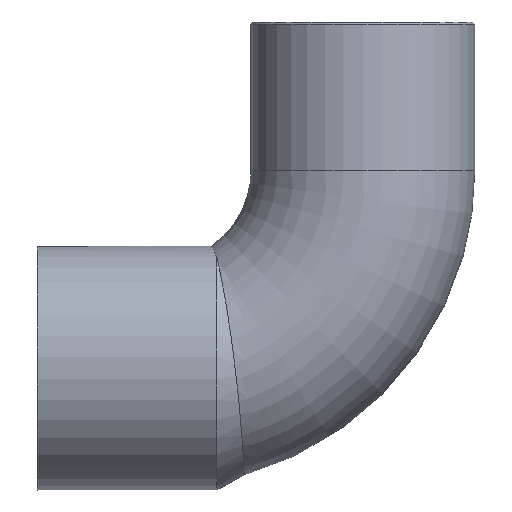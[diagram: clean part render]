
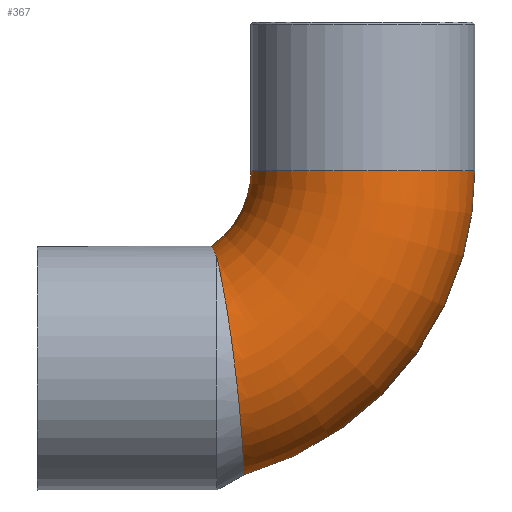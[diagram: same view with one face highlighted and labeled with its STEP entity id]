
A CAD part, top view. The second image highlights one B-rep face of the part: STEP entity #367.
In plain terms, the highlighted toroidal (fillet/blend) face has major radius 20 mm and minor radius 11 mm.
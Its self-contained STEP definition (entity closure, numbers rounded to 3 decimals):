
#169=CARTESIAN_POINT('',(31.0,0.,0.));
#170=VERTEX_POINT('',#169);
#171=CARTESIAN_POINT('',(20.0,0.,0.0));
#172=DIRECTION('',(0.0,-1.0,0.0));
#173=DIRECTION('',(1.0,0.0,0.0));
#174=AXIS2_PLACEMENT_3D('',#171,#172,#173);
#175=CIRCLE('',#174,11.0);
#176=EDGE_CURVE('',#170,#170,#175,.T.);
#229=CARTESIAN_POINT('',(5.668,-8.517,-5.055));
#230=VERTEX_POINT('',#229);
#231=CARTESIAN_POINT('',(5.668,-8.517,5.055));
#232=VERTEX_POINT('',#231);
#240=CARTESIAN_POINT('',(5.668,-8.517,-5.055));
#241=CARTESIAN_POINT('',(5.401,-7.991,-3.924));
#242=CARTESIAN_POINT('',(5.235,-7.638,-2.698));
#243=CARTESIAN_POINT('',(5.119,-7.392,-0.654));
#244=CARTESIAN_POINT('',(5.111,-7.375,0.133));
#245=CARTESIAN_POINT('',(5.191,-7.546,2.362));
#246=CARTESIAN_POINT('',(5.364,-7.919,3.769));
#247=CARTESIAN_POINT('',(5.668,-8.517,5.055));
#248=B_SPLINE_CURVE_WITH_KNOTS('',3,(#240,#241,#242,#243,#244,#245,#246,#247),.UNSPECIFIED.,.F.,.U.,(4,2,2,4),(-1.053,-0.67,-0.435,0.0),.UNSPECIFIED.);
#249=EDGE_CURVE('',#230,#232,#248,.T.);
#262=CARTESIAN_POINT('',(5.668,-8.517,5.055));
#263=CARTESIAN_POINT('',(5.812,-9.161,6.246));
#264=CARTESIAN_POINT('',(5.992,-10.021,7.306));
#265=CARTESIAN_POINT('',(6.385,-12.101,9.105));
#266=CARTESIAN_POINT('',(6.595,-13.321,9.82));
#267=CARTESIAN_POINT('',(6.998,-15.94,10.775));
#268=CARTESIAN_POINT('',(7.19,-17.32,11.013));
#269=CARTESIAN_POINT('',(7.536,-20.09,10.986));
#270=CARTESIAN_POINT('',(7.688,-21.459,10.726));
#271=CARTESIAN_POINT('',(7.943,-24.034,9.727));
#272=CARTESIAN_POINT('',(8.044,-25.22,9.));
#273=CARTESIAN_POINT('',(8.198,-27.262,7.152));
#274=CARTESIAN_POINT('',(8.25,-28.102,6.05));
#275=CARTESIAN_POINT('',(8.318,-29.334,3.585));
#276=CARTESIAN_POINT('',(8.334,-29.71,2.244));
#277=CARTESIAN_POINT('',(8.344,-29.937,-0.556));
#278=CARTESIAN_POINT('',(8.338,-29.767,-1.984));
#279=CARTESIAN_POINT('',(8.293,-28.875,-4.714));
#280=CARTESIAN_POINT('',(8.255,-28.156,-5.983));
#281=CARTESIAN_POINT('',(8.125,-26.249,-8.2));
#282=CARTESIAN_POINT('',(8.034,-25.072,-9.115));
#283=CARTESIAN_POINT('',(7.787,-22.406,-10.458));
#284=CARTESIAN_POINT('',(7.633,-20.94,-10.86));
#285=CARTESIAN_POINT('',(7.27,-17.914,-11.081));
#286=CARTESIAN_POINT('',(7.063,-16.382,-10.887));
#287=CARTESIAN_POINT('',(6.622,-13.476,-9.917));
#288=CARTESIAN_POINT('',(6.39,-12.125,-9.143));
#289=CARTESIAN_POINT('',(5.984,-9.981,-7.257));
#290=CARTESIAN_POINT('',(5.808,-9.146,-6.218));
#291=CARTESIAN_POINT('',(5.668,-8.517,-5.055));
#292=B_SPLINE_CURVE_WITH_KNOTS('',3,(#262,#263,#264,#265,#266,#267,#268,#269,#270,#271,#272,#273,#274,#275,#276,#277,#278,#279,#280,#281,#282,#283,#284,#285,#286,#287,#288,#289,#290,#291),.UNSPECIFIED.,.F.,.U.,(4,2,2,2,2,2,2,2,2,2,2,2,2,2,4),(-5.996,-5.587,-5.163,-4.743,-4.327,-3.912,-3.5,-3.085,-2.657,-2.224,-1.78,-1.326,-0.865,-0.399,0.0),.UNSPECIFIED.);
#293=EDGE_CURVE('',#232,#230,#292,.T.);
#355=CARTESIAN_POINT('',(0.0,0.0,0.0));
#356=DIRECTION('',(0.0,0.0,1.0));
#357=DIRECTION('',(1.0,0.0,0.0));
#358=AXIS2_PLACEMENT_3D('',#355,#356,#357);
#359=TOROIDAL_SURFACE('',#358,20.0,11.0);
#360=ORIENTED_EDGE('',*,*,#176,.T.);
#361=EDGE_LOOP('',(#360));
#362=FACE_OUTER_BOUND('',#361,.T.);
#363=ORIENTED_EDGE('',*,*,#293,.T.);
#364=ORIENTED_EDGE('',*,*,#249,.T.);
#365=EDGE_LOOP('',(#363,#364));
#366=FACE_BOUND('',#365,.T.);
#367=ADVANCED_FACE('',(#362,#366),#359,.T.);
